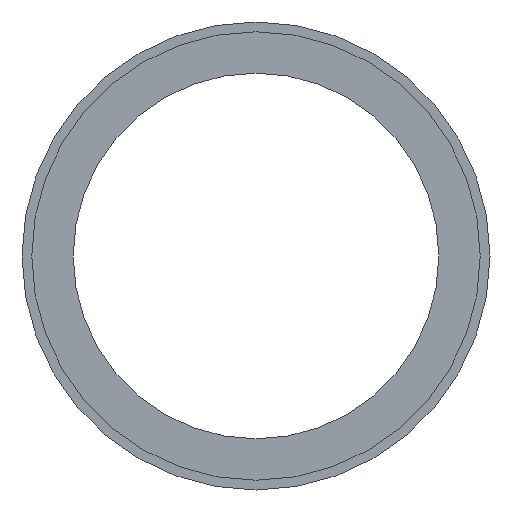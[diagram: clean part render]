
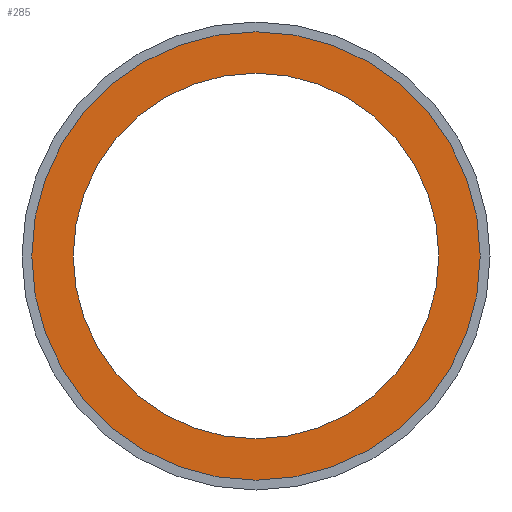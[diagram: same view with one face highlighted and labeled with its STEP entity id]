
A CAD part, front view. The second image highlights one B-rep face of the part: STEP entity #285.
In plain terms, the highlighted planar face has unit normal (0, -1, 0).
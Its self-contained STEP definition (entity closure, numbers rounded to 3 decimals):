
#4 = DIRECTION ( 'NONE',  ( 0., 0., -1. ) ) ;
#10 = VERTEX_POINT ( 'NONE', #360 ) ;
#11 = VERTEX_POINT ( 'NONE', #307 ) ;
#16 = VERTEX_POINT ( 'NONE', #245 ) ;
#19 = CIRCLE ( 'NONE', #79, 23. ) ;
#21 = ORIENTED_EDGE ( 'NONE', *, *, #83, .T. ) ;
#25 = EDGE_CURVE ( 'NONE', #10, #145, #106, .T. ) ;
#30 = DIRECTION ( 'NONE',  ( 0., -1., 0. ) ) ;
#47 = DIRECTION ( 'NONE',  ( 0., -1., 0. ) ) ;
#50 = CIRCLE ( 'NONE', #195, 18.75 ) ;
#62 = ORIENTED_EDGE ( 'NONE', *, *, #127, .F. ) ;
#66 = DIRECTION ( 'NONE',  ( 0., 0., -1. ) ) ;
#79 = AXIS2_PLACEMENT_3D ( 'NONE', #286, #30, #140 ) ;
#83 = EDGE_CURVE ( 'NONE', #145, #10, #19, .T. ) ;
#89 = CARTESIAN_POINT ( 'NONE',  ( 0., 2.53, -23. ) ) ;
#93 = CARTESIAN_POINT ( 'NONE',  ( 0., 2.53, 0. ) ) ;
#99 = ORIENTED_EDGE ( 'NONE', *, *, #339, .F. ) ;
#103 = FACE_BOUND ( 'NONE', #162, .T. ) ;
#106 = CIRCLE ( 'NONE', #324, 23. ) ;
#127 = EDGE_CURVE ( 'NONE', #11, #16, #135, .T. ) ;
#133 = CARTESIAN_POINT ( 'NONE',  ( 18.75, 2.53, 0. ) ) ;
#135 = CIRCLE ( 'NONE', #336, 18.75 ) ;
#140 = DIRECTION ( 'NONE',  ( 0., 0., -1. ) ) ;
#142 = DIRECTION ( 'NONE',  ( 0., 0., -1. ) ) ;
#145 = VERTEX_POINT ( 'NONE', #89 ) ;
#162 = EDGE_LOOP ( 'NONE', ( #99, #62 ) ) ;
#193 = PLANE ( 'NONE',  #283 ) ;
#195 = AXIS2_PLACEMENT_3D ( 'NONE', #318, #321, #4 ) ;
#196 = FACE_OUTER_BOUND ( 'NONE', #266, .T. ) ;
#245 = CARTESIAN_POINT ( 'NONE',  ( 0., 2.53, -18.75 ) ) ;
#266 = EDGE_LOOP ( 'NONE', ( #21, #293 ) ) ;
#273 = CARTESIAN_POINT ( 'NONE',  ( 0., 2.53, 0. ) ) ;
#283 = AXIS2_PLACEMENT_3D ( 'NONE', #133, #308, #312 ) ;
#285 = ADVANCED_FACE ( 'NONE', ( #196, #103 ), #193, .T. ) ;
#286 = CARTESIAN_POINT ( 'NONE',  ( 0., 2.53, 0. ) ) ;
#293 = ORIENTED_EDGE ( 'NONE', *, *, #25, .T. ) ;
#307 = CARTESIAN_POINT ( 'NONE',  ( 0., 2.53, 18.75 ) ) ;
#308 = DIRECTION ( 'NONE',  ( 0., -1., 0. ) ) ;
#312 = DIRECTION ( 'NONE',  ( 0., 0., -1. ) ) ;
#318 = CARTESIAN_POINT ( 'NONE',  ( 0., 2.53, 0. ) ) ;
#321 = DIRECTION ( 'NONE',  ( 0., -1., 0. ) ) ;
#324 = AXIS2_PLACEMENT_3D ( 'NONE', #273, #47, #142 ) ;
#330 = DIRECTION ( 'NONE',  ( 0., -1., 0. ) ) ;
#336 = AXIS2_PLACEMENT_3D ( 'NONE', #93, #330, #66 ) ;
#339 = EDGE_CURVE ( 'NONE', #16, #11, #50, .T. ) ;
#360 = CARTESIAN_POINT ( 'NONE',  ( 0., 2.53, 23. ) ) ;
